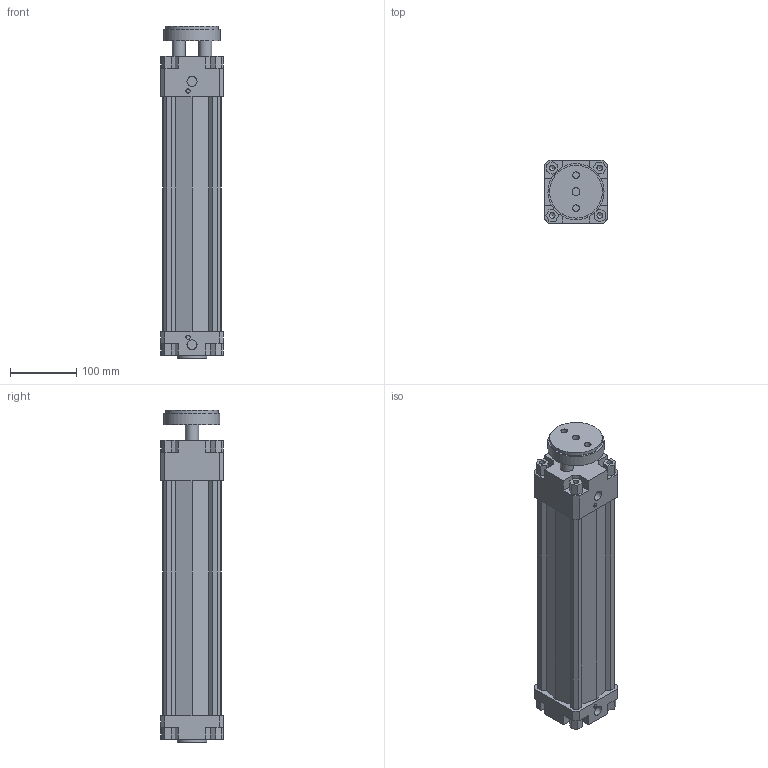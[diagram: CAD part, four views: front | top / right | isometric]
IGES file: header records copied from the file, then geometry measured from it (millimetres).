
Global section: file name: 134#_080_0300_01; native system: Autodesk Inventor 2014; preprocessor: unknown; author: A. Manieri; date: 20161006.165219; units: millimetre
Bounding box: 95 x 95 x 503 mm (x, y, z)
Volume: 2065354.8 mm3; surface area: 397556.1 mm2
Topology: 2 solids, 2 shells, 180 faces, 491 edges, 335 vertices
Faces by surface type: bspline 180
